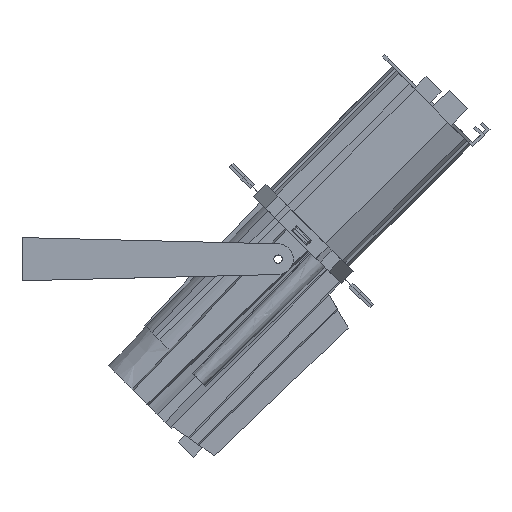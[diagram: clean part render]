
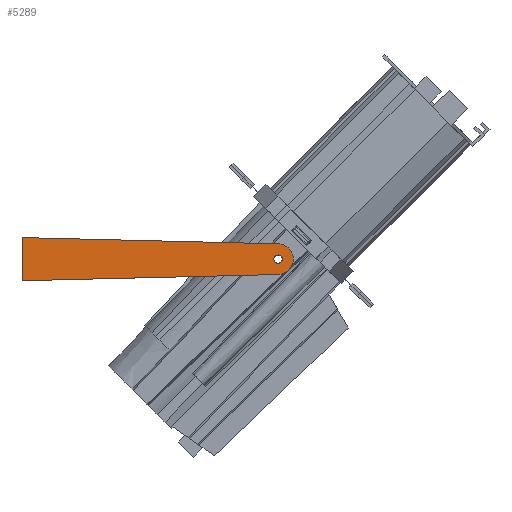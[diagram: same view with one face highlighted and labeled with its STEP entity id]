
A CAD part, front view. The second image highlights one B-rep face of the part: STEP entity #5289.
In plain terms, the highlighted planar face has unit normal (0, -1, 0) as drawn and (-1, 0, 0) by its records, which use the part's own axes.
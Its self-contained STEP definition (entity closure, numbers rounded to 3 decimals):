
#201=FACE_BOUND('',#514,.T.);
#215=FACE_OUTER_BOUND('',#513,.T.);
#513=EDGE_LOOP('',(#3478,#3479,#3480,#3481));
#514=EDGE_LOOP('',(#3482,#3483));
#820=CIRCLE('',#5620,10.);
#821=CIRCLE('',#5621,2.75);
#822=CIRCLE('',#5622,2.75);
#848=LINE('',#7158,#1497);
#852=LINE('',#7169,#1501);
#856=LINE('',#7183,#1505);
#1497=VECTOR('',#5921,10.);
#1501=VECTOR('',#5931,10.);
#1505=VECTOR('',#5945,10.);
#2149=VERTEX_POINT('',#7155);
#2150=VERTEX_POINT('',#7157);
#2154=VERTEX_POINT('',#7168);
#2159=VERTEX_POINT('',#7182);
#2160=VERTEX_POINT('',#7185);
#2161=VERTEX_POINT('',#7186);
#2662=EDGE_CURVE('',#2150,#2149,#848,.T.);
#2668=EDGE_CURVE('',#2154,#2150,#852,.T.);
#2675=EDGE_CURVE('',#2159,#2149,#856,.T.);
#2676=EDGE_CURVE('',#2154,#2159,#820,.T.);
#2677=EDGE_CURVE('',#2160,#2161,#821,.T.);
#2678=EDGE_CURVE('',#2161,#2160,#822,.T.);
#3478=ORIENTED_EDGE('',*,*,#2668,.T.);
#3479=ORIENTED_EDGE('',*,*,#2662,.T.);
#3480=ORIENTED_EDGE('',*,*,#2675,.F.);
#3481=ORIENTED_EDGE('',*,*,#2676,.F.);
#3482=ORIENTED_EDGE('',*,*,#2677,.F.);
#3483=ORIENTED_EDGE('',*,*,#2678,.F.);
#5046=PLANE('',#5619);
#5289=ADVANCED_FACE('',(#215,#201),#5046,.T.);
#5619=AXIS2_PLACEMENT_3D('',#7181,#5943,#5944);
#5620=AXIS2_PLACEMENT_3D('',#7184,#5946,#5947);
#5621=AXIS2_PLACEMENT_3D('',#7187,#5948,#5949);
#5622=AXIS2_PLACEMENT_3D('',#7188,#5950,#5951);
#5921=DIRECTION('',(0.,-1.,0.));
#5931=DIRECTION('',(0.,0.024,-1.));
#5943=DIRECTION('center_axis',(-1.,0.,0.));
#5944=DIRECTION('ref_axis',(0.,-1.,0.));
#5945=DIRECTION('',(0.,-0.024,-1.));
#5946=DIRECTION('center_axis',(1.,0.,0.));
#5947=DIRECTION('ref_axis',(0.,1.,0.024));
#5948=DIRECTION('center_axis',(-1.,0.,0.));
#5949=DIRECTION('ref_axis',(0.,1.,0.));
#5950=DIRECTION('center_axis',(-1.,0.,0.));
#5951=DIRECTION('ref_axis',(0.,1.,0.));
#7155=CARTESIAN_POINT('',(-42.5,-14.061,0.));
#7157=CARTESIAN_POINT('',(-42.5,14.061,0.));
#7158=CARTESIAN_POINT('',(-42.5,-7.,0.));
#7168=CARTESIAN_POINT('',(-42.5,9.997,167.243));
#7169=CARTESIAN_POINT('',(-42.5,14.022,1.591));
#7181=CARTESIAN_POINT('Origin',(-42.5,-14.,0.));
#7182=CARTESIAN_POINT('',(-42.5,-9.997,167.243));
#7183=CARTESIAN_POINT('',(-42.5,-12.029,83.622));
#7184=CARTESIAN_POINT('Origin',(-42.5,0.,167.));
#7185=CARTESIAN_POINT('',(-42.5,2.75,167.));
#7186=CARTESIAN_POINT('',(-42.5,-2.75,167.));
#7187=CARTESIAN_POINT('Origin',(-42.5,0.,167.));
#7188=CARTESIAN_POINT('Origin',(-42.5,0.,167.));
